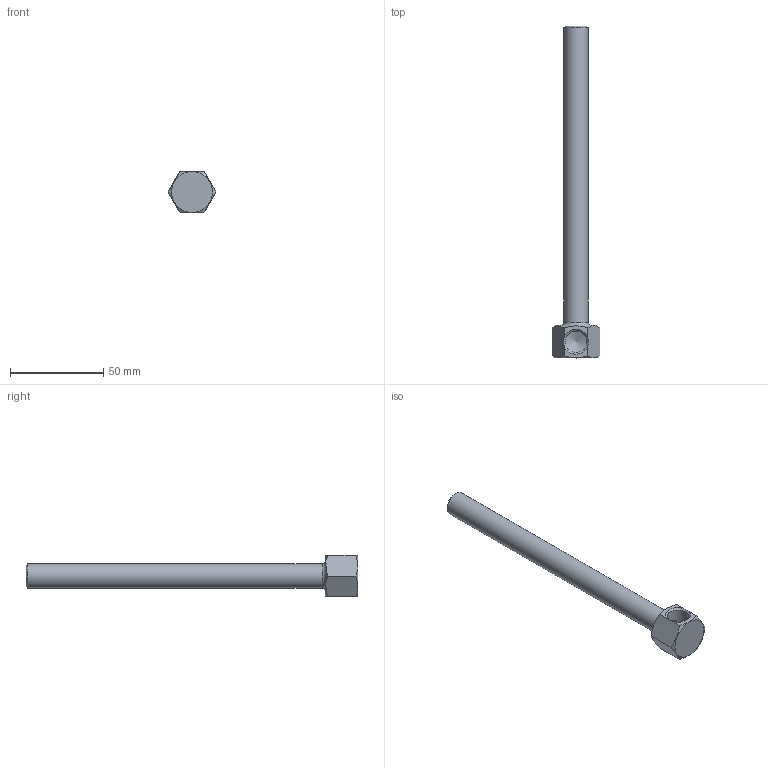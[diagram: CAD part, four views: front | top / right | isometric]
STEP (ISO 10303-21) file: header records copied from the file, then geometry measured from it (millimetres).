
FILE_DESCRIPTION(/* description */ (''),/* implementation_level */ '2;1');
FILE_NAME(/* name */ 'C:/Users/drich/Desktop/14B-7 v1.step',/* time_stamp */ '2019-12-29T15:18:38-06:00',/* author */ (''),/* organization */ (''),/* preprocessor_version */ 'ST-DEVELOPER v18',/* originating_system */ 'Autodesk Translation Framework v8.12.0.6',/* authorisation */ '');
FILE_SCHEMA (('AUTOMOTIVE_DESIGN { 1 0 10303 214 3 1 1 }'));
Length unit declared in the file: inch
Products named in the file (1): 14B-7
Bounding box: 25.66 x 177.8 x 22.23 mm (x, y, z)
Volume: 17339.6 mm3; surface area: 13563.4 mm2
Topology: 1 solids, 1 shells, 20 faces, 55 edges, 36 vertices
Faces by surface type: plane 10, cone 6, cylinder 3, torus 1
Full cylindrical faces by diameter (mm): 8.712 x1, 11.668 x1, 13.032 x1
Entity records: 710 total; most frequent: CARTESIAN_POINT 197, ORIENTED_EDGE 108, DIRECTION 93, EDGE_CURVE 54, AXIS2_PLACEMENT_3D 38, VERTEX_POINT 36, EDGE_LOOP 22, FACE_OUTER_BOUND 20
